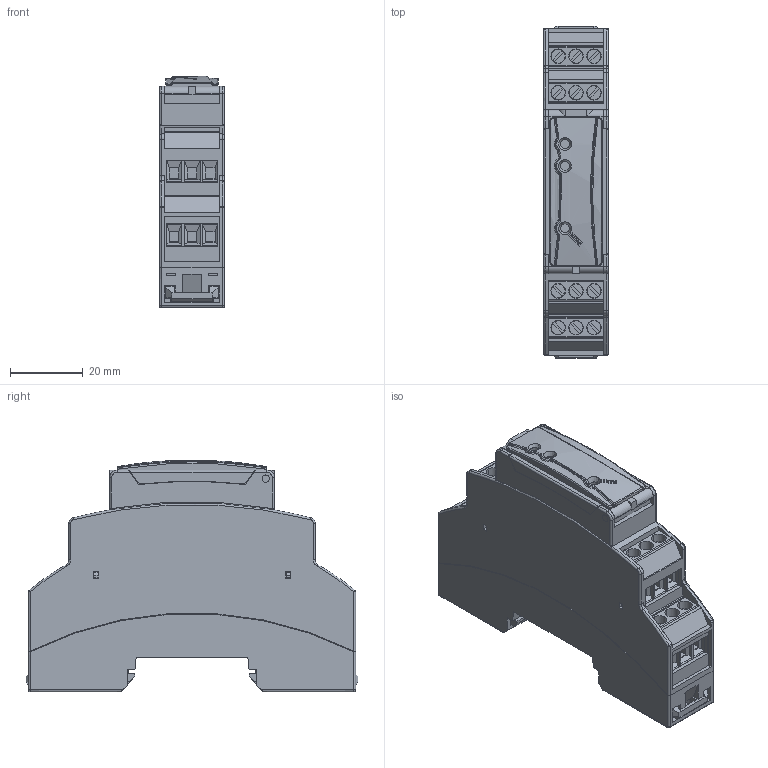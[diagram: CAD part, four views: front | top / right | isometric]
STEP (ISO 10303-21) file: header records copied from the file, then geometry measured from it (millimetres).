
FILE_DESCRIPTION(/* description */ (''),/* implementation_level */ '2;1');
FILE_NAME(/* name */ 'PLE500-8AD_20260618.stp',/* time_stamp */ '2026-06-18T17:00:26+02:00',/* author */ ('ut3'),/* organization */ (''),/* preprocessor_version */ 'ST-DEVELOPER v20.1',/* originating_system */ 'Autodesk Inventor 2026',/* authorisation */ '');
FILE_SCHEMA (('AUTOMOTIVE_DESIGN { 1 0 10303 214 3 1 1 }'));
Products named in the file (12): PLE500-8AD; 2896241; 2896241_01; 2896241_02; 2896241_03; 2279732; 1900.00.173_fori; 2896102; 2896102_02; PCB; 2854092; 2854102
Assembly tree (13 placements, depth 3):
  PLE500-8AD
    2896241
      2896241_01
      2896241_02
      2896241_03
    2279732
    1900.00.173_fori
    2896102
      2896102_02
    PCB
    2854102  x2
    2854092  x2
Bounding box: 17.8 x 91 x 63.43 mm (x, y, z)
Volume: 34922.1 mm3; surface area: 46458.9 mm2
Topology: 11 solids, 11 shells, 1914 faces, 5330 edges, 3462 vertices
Faces by surface type: plane 1459, cylinder 364, bspline 57, torus 20, sphere 11, cone 3
Full cylindrical faces by diameter (mm): 0.025 x1, 2.403 x4, 2.743 x3
Entity records: 53297 total; most frequent: CARTESIAN_POINT 15934, ORIENTED_EDGE 7908, DIRECTION 7244, EDGE_CURVE 3954, LINE 3106, VECTOR 3106, VERTEX_POINT 2574, AXIS2_PLACEMENT_3D 2069
